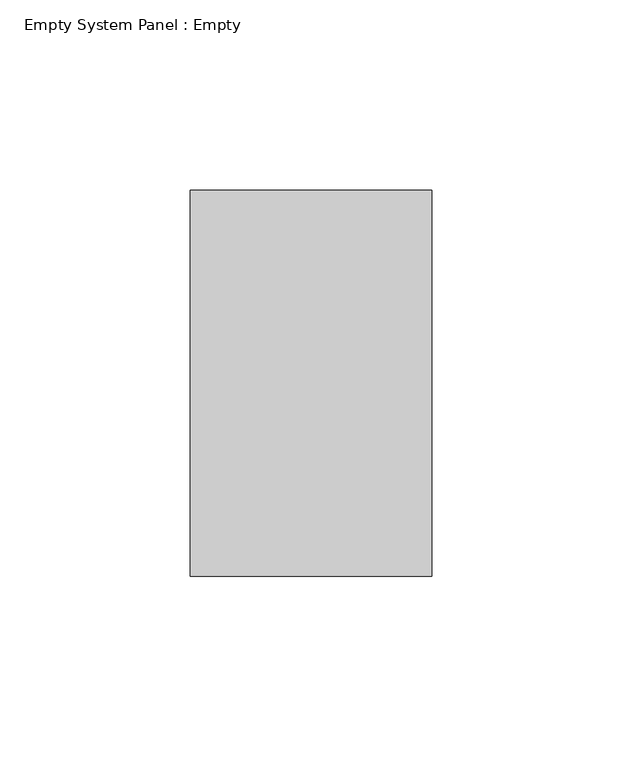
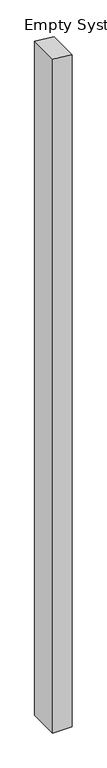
"""IFC4 building model written with IfcOpenShell, lengths in millimetres: plate geometry, Empty System Panel : Empty."""

from ifc_helpers import new_model, si_unit, frame, origin, place, context, project, spatial, polyline, outline, extrude, source, transform, mapped, element, save


def empty_system_panel_empty_d69abf31(model_context):
    return source(origin(), model_context, "Body", "SweptSolid", [
        extrude(outline(polyline([(0.0, -31.75), (0.0, 31.75), (2323.7379765, 31.75), (2330.8403356, -31.75), (0.0, -31.75)])), frame((0.0, -50.8, 0.0), z_axis=(0.0, 1.0, 0.0), x_axis=(0.0, 0.0, 1.0)), (0.0, 0.0, 1.0), 101.6),
    ])


if __name__ == "__main__":
    model = new_model("IFC4")
    model_context = context("Model", 3, world=origin())
    ifc_project = project(units=[si_unit("LENGTHUNIT", "METRE", prefix="MILLI")], contexts=[model_context])
    site = spatial("IfcSite", under=ifc_project)
    building = spatial("IfcBuilding", under=site)
    placement = place(None, origin())
    empty_system_panel_empty_shape = empty_system_panel_empty_d69abf31(model_context)
    element("IfcPlate", 1, ObjectType="Empty System Panel : Empty", at=placement, inside=building, context=model_context, shape_type="MappedRepresentation", body=[
        mapped(empty_system_panel_empty_shape, transform((0.0, 0.0, 0.0), x_axis=(1.0, 0.0, 0.0), y_axis=(0.0, 1.0, 0.0), z_axis=(0.0, 0.0, 1.0))),
    ])
    save(model, "model.ifc")
